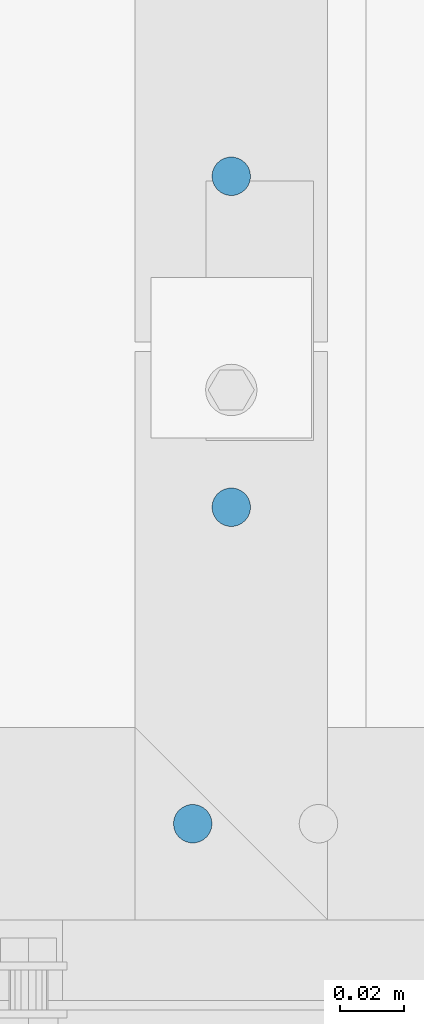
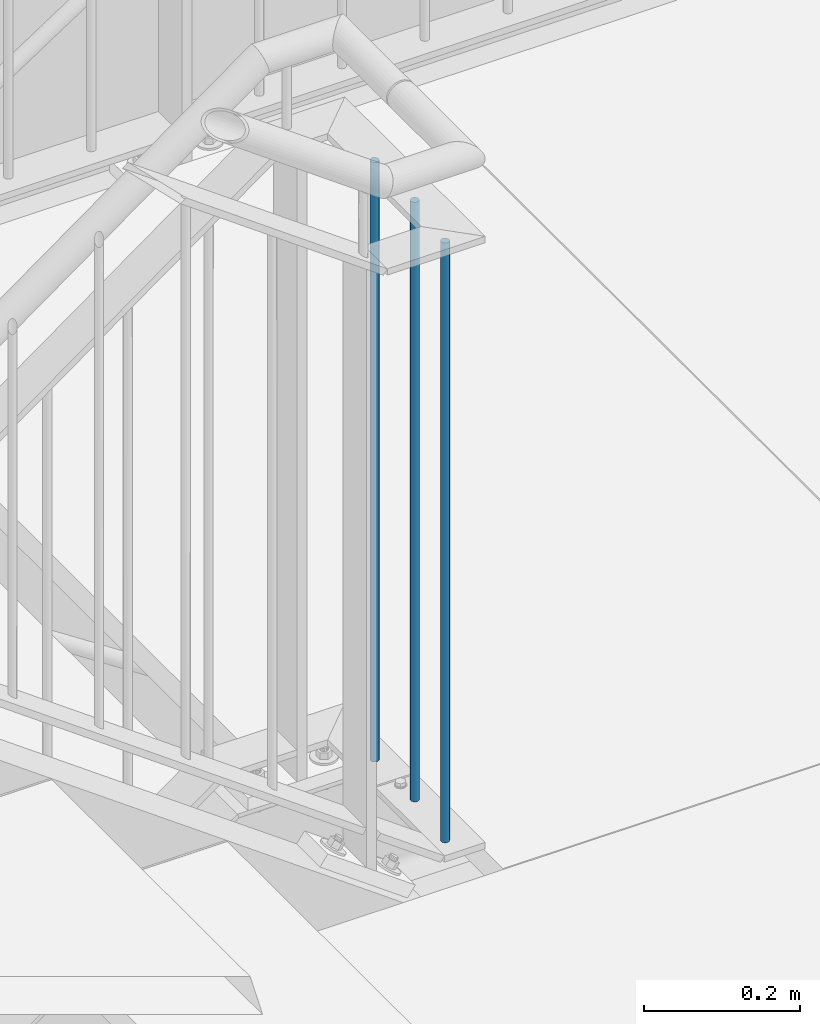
# One storey, part 52 of 825: 3 columns.
"""IFC2X3 building model written with IfcOpenShell, lengths in millimetres."""

from ifc_helpers import new_model, entity, si_unit, converted_unit, frame, origin, origin_with_axes, origin_2d, place, context, project, spatial, circle, extrude, material, element, save


model = new_model("IFC2X3")

# Units and contexts
model_context = context("Model", 3, precision=1e-09, world=origin_with_axes())
ifc_project = project(units=[si_unit("LENGTHUNIT", "METRE", prefix="MILLI"), si_unit("AREAUNIT", "SQUARE_METRE"), si_unit("VOLUMEUNIT", "CUBIC_METRE"), converted_unit("PLANEANGLEUNIT", "DEGREE", entity("IfcPlaneAngleMeasure", 0.01745329), si_unit("PLANEANGLEUNIT", "RADIAN"), dimensions=[0, 0, 0, 0, 0, 0, 0])], contexts=[model_context])

# Site, building, storey
site_placement = place(None, origin_with_axes())
site = spatial("IfcSite", under=ifc_project, at=site_placement, Name="Cnopf'sche Kinderklinik", CompositionType="ELEMENT")
building_placement = place(site_placement, origin_with_axes())
building = spatial("IfcBuilding", under=site, at=building_placement, Name="Struktur 1", CompositionType="ELEMENT")
storey_placement = place(building_placement, origin_with_axes())
storey = spatial("IfcBuildingStorey", under=building, at=storey_placement, Name="Default Storey", CompositionType="ELEMENT", Elevation=0.0)

# Columns
ifc_material = material(Name="S235JR")
for number, where, z_axis, x_axis, name in (
    (1, (7152.822212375, 5791.736971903, 9644.8), (0.0, 0.0, 1.0), (-1.0, 0.0, 0.0), "Railing_Picket_Stair#0"),
    (2, (7164.822212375, 5890.236971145, 9644.8), (0.0, 0.0, 1.0), (-1.0, 0.0, 0.0), "Railing_Picket_Stair#0"),
    (3, (7164.822212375, 5993.236971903, 9644.8), (0.0, 0.0, 1.0), (-1.0, 0.0, 0.0), "Railing_Picket_Stair#0"),
):
    element("IfcColumn", number, at=place(None, frame(where, z_axis=z_axis, x_axis=x_axis)), inside=storey, material=ifc_material, Name=name, ObjectType="Railing_Picket_Stair#0", context=model_context, shape_type="SweptSolid", body=[
        extrude(circle(Radius=6.0, at=origin_2d()), origin(), (0.0, 0.0, -1.0), 938.8),
    ])

save(model, "model.ifc")
